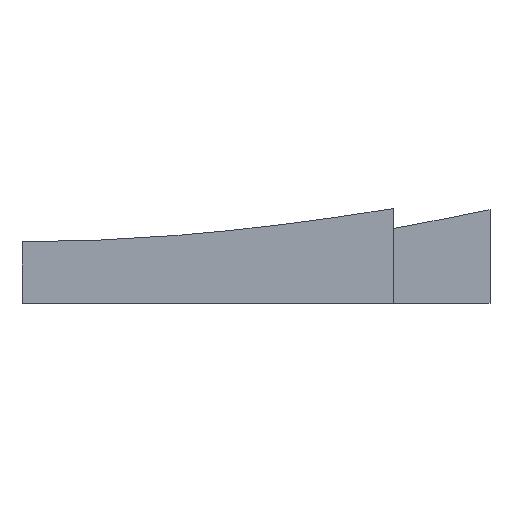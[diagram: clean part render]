
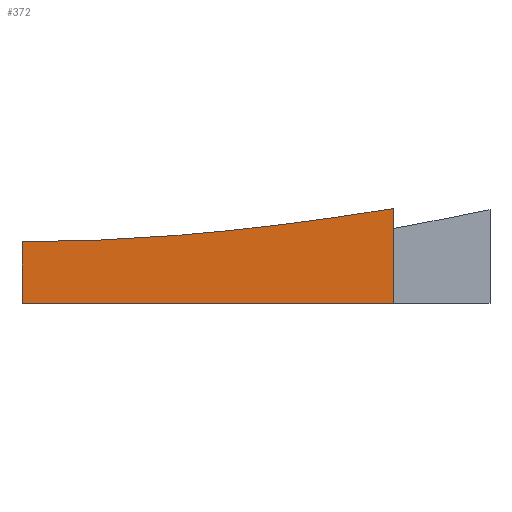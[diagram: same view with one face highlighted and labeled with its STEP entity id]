
A CAD part, front view. The second image highlights one B-rep face of the part: STEP entity #372.
In plain terms, the highlighted planar face has unit normal (0, -1, 0).
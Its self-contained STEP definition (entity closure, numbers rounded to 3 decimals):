
#33 = CONICAL_SURFACE('',#34,112.,1.309);
#34 = AXIS2_PLACEMENT_3D('',#35,#36,#37);
#35 = CARTESIAN_POINT('',(0.,-46.,6.5));
#36 = DIRECTION('',(0.,0.,1.));
#37 = DIRECTION('',(1.,0.,0.));
#151 = VERTEX_POINT('',#152);
#152 = CARTESIAN_POINT('',(123.,-210.,31.423));
#171 = PLANE('',#172);
#172 = AXIS2_PLACEMENT_3D('',#173,#174,#175);
#173 = CARTESIAN_POINT('',(123.,-220.,-1.));
#174 = DIRECTION('',(1.,0.,0.));
#175 = DIRECTION('',(0.,0.,1.));
#183 = EDGE_CURVE('',#184,#151,#186,.T.);
#184 = VERTEX_POINT('',#185);
#185 = CARTESIAN_POINT('',(0.,-210.,20.435));
#186 = SURFACE_CURVE('',#187,(#192,#212),.PCURVE_S1.);
#187 = HYPERBOLA('',#188,43.95,164.);
#188 = AXIS2_PLACEMENT_3D('',#189,#190,#191);
#189 = CARTESIAN_POINT('',(0.,-210.,-23.515));
#190 = DIRECTION('',(0.,1.,0.));
#191 = DIRECTION('',(0.,-0.,1.));
#192 = PCURVE('',#33,#193);
#193 = DEFINITIONAL_REPRESENTATION('',(#194),#211);
#194 = B_SPLINE_CURVE_WITH_KNOTS('',8,(#195,#196,#197,#198,#199,#200,
    #201,#202,#203,#204,#205,#206,#207,#208,#209,#210),.UNSPECIFIED.,.F.
  ,.F.,(9,7,9),(-0.973,0.,0.973),.UNSPECIFIED.);
#195 = CARTESIAN_POINT('',(3.864,36.44));
#196 = CARTESIAN_POINT('',(3.945,30.377));
#197 = CARTESIAN_POINT('',(4.033,25.437));
#198 = CARTESIAN_POINT('',(4.131,21.485));
#199 = CARTESIAN_POINT('',(4.237,18.418));
#200 = CARTESIAN_POINT('',(4.35,16.165));
#201 = CARTESIAN_POINT('',(4.469,14.679));
#202 = CARTESIAN_POINT('',(4.591,13.935));
#203 = CARTESIAN_POINT('',(4.834,13.935));
#204 = CARTESIAN_POINT('',(4.956,14.679));
#205 = CARTESIAN_POINT('',(5.075,16.165));
#206 = CARTESIAN_POINT('',(5.188,18.418));
#207 = CARTESIAN_POINT('',(5.294,21.485));
#208 = CARTESIAN_POINT('',(5.391,25.437));
#209 = CARTESIAN_POINT('',(5.48,30.377));
#210 = CARTESIAN_POINT('',(5.561,36.44));
#211 = ( GEOMETRIC_REPRESENTATION_CONTEXT(2) 
PARAMETRIC_REPRESENTATION_CONTEXT() REPRESENTATION_CONTEXT('2D SPACE',''
  ) );
#212 = PCURVE('',#213,#218);
#213 = PLANE('',#214);
#214 = AXIS2_PLACEMENT_3D('',#215,#216,#217);
#215 = CARTESIAN_POINT('',(-155.,-210.,0.));
#216 = DIRECTION('',(0.,1.,0.));
#217 = DIRECTION('',(0.,0.,1.));
#218 = DEFINITIONAL_REPRESENTATION('',(#219),#223);
#219 = ( BOUNDED_CURVE() B_SPLINE_CURVE(2,(#220,#221,#222),
.UNSPECIFIED.,.F.,.F.) B_SPLINE_CURVE_WITH_KNOTS((3,3),(-0.973,
0.973),.PIECEWISE_BEZIER_KNOTS.) CURVE() 
GEOMETRIC_REPRESENTATION_ITEM() RATIONAL_B_SPLINE_CURVE((1.,
1.512,1.)) REPRESENTATION_ITEM('') );
#220 = CARTESIAN_POINT('',(42.94,-31.));
#221 = CARTESIAN_POINT('',(5.552,155.));
#222 = CARTESIAN_POINT('',(42.94,341.));
#223 = ( GEOMETRIC_REPRESENTATION_CONTEXT(2) 
PARAMETRIC_REPRESENTATION_CONTEXT() REPRESENTATION_CONTEXT('2D SPACE',''
  ) );
#238 = PLANE('',#239);
#239 = AXIS2_PLACEMENT_3D('',#240,#241,#242);
#240 = CARTESIAN_POINT('',(0.,-400.,-2.));
#241 = DIRECTION('',(1.,0.,0.));
#242 = DIRECTION('',(0.,0.,1.));
#293 = PLANE('',#294);
#294 = AXIS2_PLACEMENT_3D('',#295,#296,#297);
#295 = CARTESIAN_POINT('',(-155.,-210.,0.));
#296 = DIRECTION('',(0.,0.,1.));
#297 = DIRECTION('',(1.,0.,0.));
#333 = EDGE_CURVE('',#184,#334,#336,.T.);
#334 = VERTEX_POINT('',#335);
#335 = CARTESIAN_POINT('',(0.,-210.,0.));
#336 = SURFACE_CURVE('',#337,(#341,#347),.PCURVE_S1.);
#337 = LINE('',#338,#339);
#338 = CARTESIAN_POINT('',(0.,-210.,-1.));
#339 = VECTOR('',#340,1.);
#340 = DIRECTION('',(0.,0.,-1.));
#341 = PCURVE('',#238,#342);
#342 = DEFINITIONAL_REPRESENTATION('',(#343),#346);
#343 = B_SPLINE_CURVE_WITH_KNOTS('',1,(#344,#345),.UNSPECIFIED.,.F.,.F.,
  (2,2),(-32.423,-1.),.PIECEWISE_BEZIER_KNOTS.);
#344 = CARTESIAN_POINT('',(33.423,-190.));
#345 = CARTESIAN_POINT('',(2.,-190.));
#346 = ( GEOMETRIC_REPRESENTATION_CONTEXT(2) 
PARAMETRIC_REPRESENTATION_CONTEXT() REPRESENTATION_CONTEXT('2D SPACE',''
  ) );
#347 = PCURVE('',#213,#348);
#348 = DEFINITIONAL_REPRESENTATION('',(#349),#352);
#349 = B_SPLINE_CURVE_WITH_KNOTS('',1,(#350,#351),.UNSPECIFIED.,.F.,.F.,
  (2,2),(-32.423,-1.),.PIECEWISE_BEZIER_KNOTS.);
#350 = CARTESIAN_POINT('',(31.423,155.));
#351 = CARTESIAN_POINT('',(0.,155.));
#352 = ( GEOMETRIC_REPRESENTATION_CONTEXT(2) 
PARAMETRIC_REPRESENTATION_CONTEXT() REPRESENTATION_CONTEXT('2D SPACE',''
  ) );
#372 = ADVANCED_FACE('',(#373),#213,.F.);
#373 = FACE_BOUND('',#374,.F.);
#374 = EDGE_LOOP('',(#375,#376,#397,#418));
#375 = ORIENTED_EDGE('',*,*,#183,.T.);
#376 = ORIENTED_EDGE('',*,*,#377,.T.);
#377 = EDGE_CURVE('',#151,#378,#380,.T.);
#378 = VERTEX_POINT('',#379);
#379 = CARTESIAN_POINT('',(123.,-210.,0.));
#380 = SURFACE_CURVE('',#381,(#385,#391),.PCURVE_S1.);
#381 = LINE('',#382,#383);
#382 = CARTESIAN_POINT('',(123.,-210.,-0.5));
#383 = VECTOR('',#384,1.);
#384 = DIRECTION('',(0.,0.,-1.));
#385 = PCURVE('',#213,#386);
#386 = DEFINITIONAL_REPRESENTATION('',(#387),#390);
#387 = B_SPLINE_CURVE_WITH_KNOTS('',1,(#388,#389),.UNSPECIFIED.,.F.,.F.,
  (2,2),(-37.459,-0.5),.PIECEWISE_BEZIER_KNOTS.);
#388 = CARTESIAN_POINT('',(36.959,278.));
#389 = CARTESIAN_POINT('',(0.,278.));
#390 = ( GEOMETRIC_REPRESENTATION_CONTEXT(2) 
PARAMETRIC_REPRESENTATION_CONTEXT() REPRESENTATION_CONTEXT('2D SPACE',''
  ) );
#391 = PCURVE('',#171,#392);
#392 = DEFINITIONAL_REPRESENTATION('',(#393),#396);
#393 = B_SPLINE_CURVE_WITH_KNOTS('',1,(#394,#395),.UNSPECIFIED.,.F.,.F.,
  (2,2),(-37.459,-0.5),.PIECEWISE_BEZIER_KNOTS.);
#394 = CARTESIAN_POINT('',(37.959,-10.));
#395 = CARTESIAN_POINT('',(1.,-10.));
#396 = ( GEOMETRIC_REPRESENTATION_CONTEXT(2) 
PARAMETRIC_REPRESENTATION_CONTEXT() REPRESENTATION_CONTEXT('2D SPACE',''
  ) );
#397 = ORIENTED_EDGE('',*,*,#398,.F.);
#398 = EDGE_CURVE('',#334,#378,#399,.T.);
#399 = SURFACE_CURVE('',#400,(#404,#411),.PCURVE_S1.);
#400 = LINE('',#401,#402);
#401 = CARTESIAN_POINT('',(-155.,-210.,0.));
#402 = VECTOR('',#403,1.);
#403 = DIRECTION('',(1.,0.,0.));
#404 = PCURVE('',#213,#405);
#405 = DEFINITIONAL_REPRESENTATION('',(#406),#410);
#406 = LINE('',#407,#408);
#407 = CARTESIAN_POINT('',(0.,0.));
#408 = VECTOR('',#409,1.);
#409 = DIRECTION('',(0.,1.));
#410 = ( GEOMETRIC_REPRESENTATION_CONTEXT(2) 
PARAMETRIC_REPRESENTATION_CONTEXT() REPRESENTATION_CONTEXT('2D SPACE',''
  ) );
#411 = PCURVE('',#293,#412);
#412 = DEFINITIONAL_REPRESENTATION('',(#413),#417);
#413 = LINE('',#414,#415);
#414 = CARTESIAN_POINT('',(0.,0.));
#415 = VECTOR('',#416,1.);
#416 = DIRECTION('',(1.,0.));
#417 = ( GEOMETRIC_REPRESENTATION_CONTEXT(2) 
PARAMETRIC_REPRESENTATION_CONTEXT() REPRESENTATION_CONTEXT('2D SPACE',''
  ) );
#418 = ORIENTED_EDGE('',*,*,#333,.F.);
